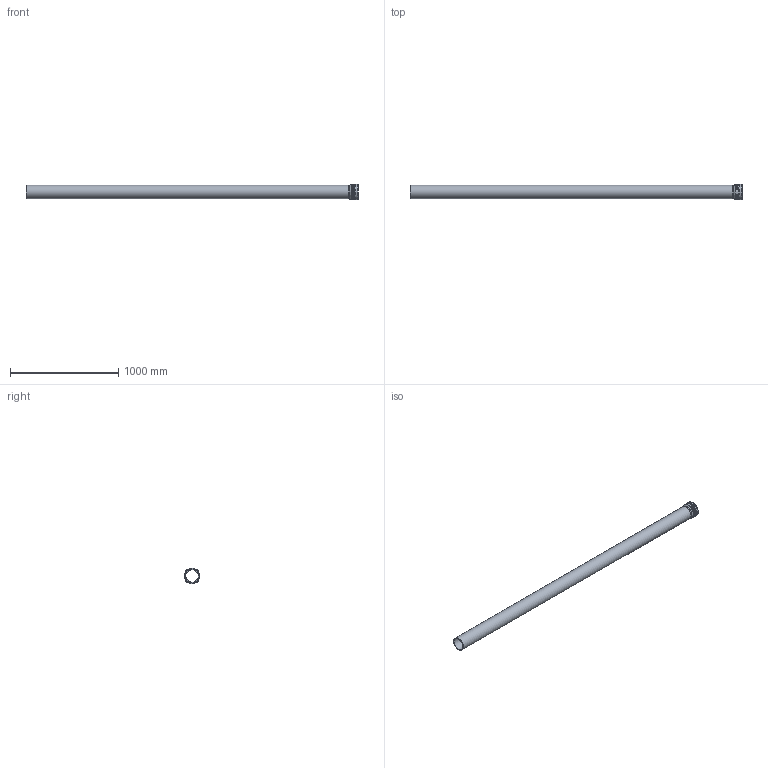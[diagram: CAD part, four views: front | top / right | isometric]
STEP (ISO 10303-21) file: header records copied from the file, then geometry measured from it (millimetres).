
FILE_DESCRIPTION(/* description */ (''),/* implementation_level */ '2;1');
FILE_NAME(/* name */ 'H:\Geberit-Teile\Export\PP_Rohr\stp\393607.stp',/* time_stamp */ '2017-02-13T16:10:02+01:00',/* author */ ('seihe2'),/* organization */ (''),/* preprocessor_version */ 'ST-DEVELOPER v15.2',/* originating_system */ 'Autodesk Inventor 2014',/* authorisation */ '');
FILE_SCHEMA (('AUTOMOTIVE_DESIGN { 1 0 10303 214 3 1 1 }'));
Length unit declared in the file: millimetre
Products named in the file (1): 393607
Bounding box: 3073.9 x 146.35 x 146.35 mm (x, y, z)
Volume: 5833630.5 mm3; surface area: 2354902.7 mm2
Topology: 2 solids, 2 shells, 38 faces, 81 edges, 56 vertices
Faces by surface type: torus 17, cylinder 10, plane 8, cone 2, bspline 1
Full cylindrical faces by diameter (mm): 115.2 x2, 125.2 x2, 126.2 x1, 129.2 x1, 135.2 x1, 137.75 x1, 138.2 x1, 146.35 x1
Entity records: 2345 total; most frequent: CARTESIAN_POINT 1566, DIRECTION 130, ORIENTED_EDGE 124, EDGE_LOOP 69, AXIS2_PLACEMENT_3D 65, EDGE_CURVE 62, VERTEX_POINT 55, STYLED_ITEM 40
